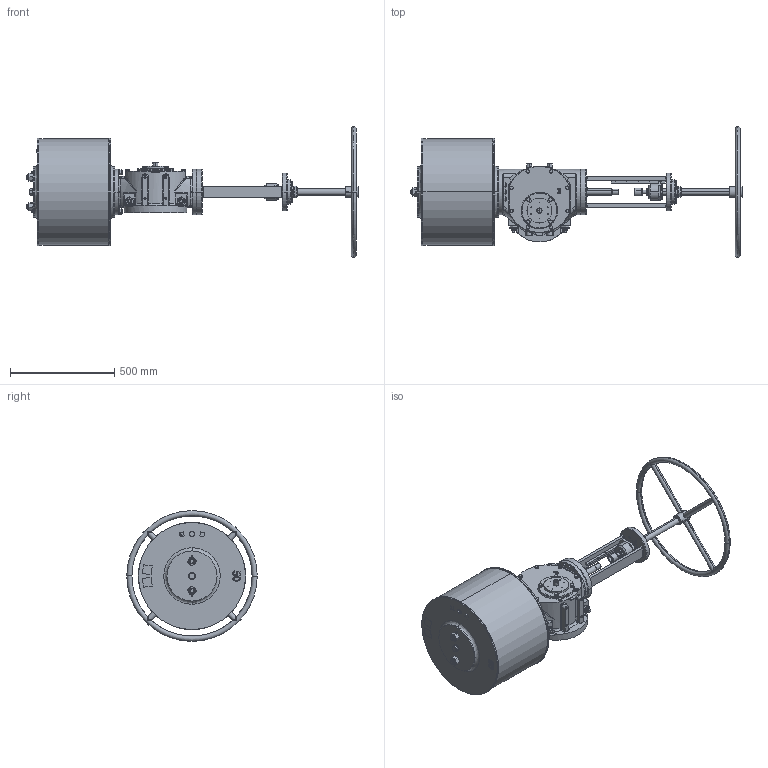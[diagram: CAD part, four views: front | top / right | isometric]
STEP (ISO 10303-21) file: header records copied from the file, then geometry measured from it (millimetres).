
FILE_DESCRIPTION (( 'STEP AP203' ), '1' );
FILE_NAME ('VTS3-500-MSD.STEP', '2023-01-01T09:15:58', ( '' ), ( '' ), 'SwSTEP 2.0', 'SolidWorks 2020', '' );
FILE_SCHEMA (( 'CONFIG_CONTROL_DESIGN' ));
Length unit declared in the file: millimetre
Products named in the file (1): VTS3-500-MSD
Bounding box: 1590.03 x 625 x 625 mm (x, y, z)
Volume: 95817593.3 mm3; surface area: 2513176.7 mm2
Topology: 3 solids, 21 shells, 2592 faces, 6556 edges, 4095 vertices
Faces by surface type: plane 1108, cylinder 800, cone 499, bspline 149, torus 36
Entity records: 95868 total; most frequent: CARTESIAN_POINT 35090, ORIENTED_EDGE 12910, DIRECTION 12498, EDGE_CURVE 6455, AXIS2_PLACEMENT_3D 4906, VERTEX_POINT 4095, EDGE_LOOP 2898, VECTOR 2686
